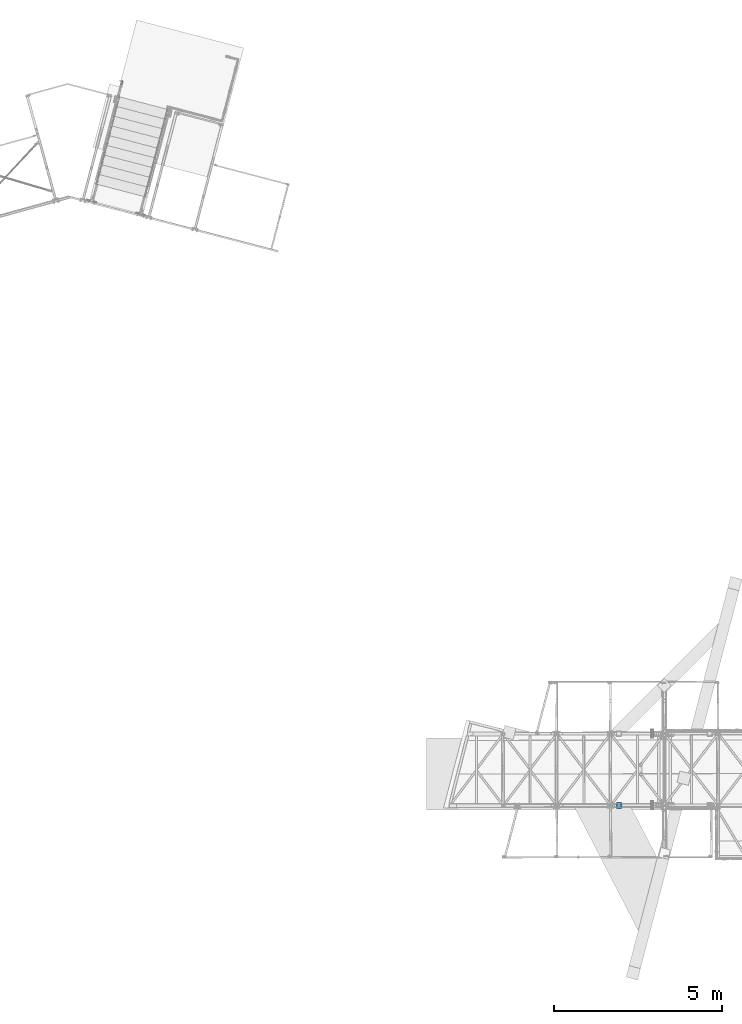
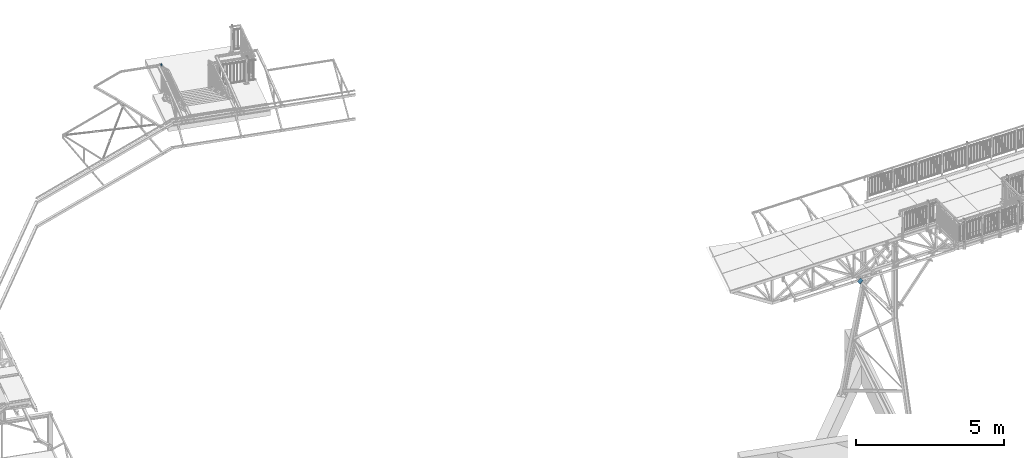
# One storey, part 22 of 169: 3 members, 1 beam, 4 elements without a shape of their own.
"""IFC2X3 building model written with IfcOpenShell, lengths in millimetres."""

import ifcopenshell
import ifcopenshell.guid

model = None  # the IFC model being written
_history = None  # IfcOwnerHistory: only IFC2X3 demands one
_inside = {}  # id of a spatial element -> (the spatial element, [elements in it])
_under = {}  # id of a project, library or spatial element -> (it, [spatial elements below it])
_declared = {}  # id of a project -> (the project, [libraries it declares])
_typed = {}  # id of a type object -> (the type object, [elements of that type])
_made_of = {}  # id of a material, layer set ... -> (it, [elements and type objects made of it])


def new_model(schema):
    """Start an empty IFC model of exactly this schema.

    Asked for "IFC4X3", IfcOpenShell would pick the latest addendum, in which some entities
    have other attributes; the version numbers below select the first issue.
    IFC2X3 requires an IfcOwnerHistory on every rooted entity: one is made here for all.
    """
    global model, _history
    if schema == "IFC4X3":
        model = ifcopenshell.file(schema_version=(4, 3, 0, 0))
    else:
        model = ifcopenshell.file(schema=schema)
    _inside.clear()
    _under.clear()
    _declared.clear()
    _typed.clear()
    _made_of.clear()
    _history = None
    if model.schema == "IFC2X3":
        org = make("IfcOrganization", Name="unknown")
        user = make(
            "IfcPersonAndOrganization",
            ThePerson=make("IfcPerson", FamilyName="unknown"),
            TheOrganization=org,
        )
        app = make(
            "IfcApplication",
            ApplicationDeveloper=org,
            Version="unknown",
            ApplicationFullName="unknown",
            ApplicationIdentifier="unknown",
        )
        _history = make(
            "IfcOwnerHistory",
            OwningUser=user,
            OwningApplication=app,
            ChangeAction="ADDED",
            CreationDate=0,
        )
    return model


def make(cls, **values):
    """One entity of the class cls with the attributes given. An attribute that is None is left unset."""
    return model.create_entity(
        cls, **{name: value for name, value in values.items() if value is not None}
    )


def rooted(cls, **values):
    """An entity with a GlobalId (a new one), such as an element, a storey or a relation."""
    return make(cls, GlobalId=ifcopenshell.guid.new(), OwnerHistory=_history, **values)


def si_unit(unit_type, name, prefix=None):
    """IfcSIUnit, for example si_unit("LENGTHUNIT", "METRE", prefix="MILLI")."""
    return make("IfcSIUnit", UnitType=unit_type, Prefix=prefix, Name=name)


def assignment(units):
    """IfcUnitAssignment: the units of a project."""
    return None if units is None else make("IfcUnitAssignment", Units=units)


def point(xyz):
    """IfcCartesianPoint."""
    return None if xyz is None else make("IfcCartesianPoint", Coordinates=xyz)


def direction(xyz):
    """IfcDirection."""
    return None if xyz is None else make("IfcDirection", DirectionRatios=xyz)


def frame(location, z_axis=None, x_axis=None):
    """IfcAxis2Placement3D, a coordinate frame: its origin and axes. An axis left out is left unset."""
    return make(
        "IfcAxis2Placement3D",
        Location=point(location),
        Axis=direction(z_axis),
        RefDirection=direction(x_axis),
    )


def frame_2d(location, x_axis=None):
    """IfcAxis2Placement2D, a coordinate frame in the plane: its origin and x axis."""
    return make(
        "IfcAxis2Placement2D", Location=point(location), RefDirection=direction(x_axis)
    )


def origin_with_axes():
    """The frame at (0, 0, 0) with the z axis (0, 0, 1) and the x axis (1, 0, 0) written out."""
    return frame((0.0, 0.0, 0.0), z_axis=(0.0, 0.0, 1.0), x_axis=(1.0, 0.0, 0.0))


def origin_2d_with_axis():
    """The frame at (0, 0) in the plane with the x axis (1, 0) written out."""
    return frame_2d((0.0, 0.0), x_axis=(1.0, 0.0))


def place(relative_to, where):
    """IfcLocalPlacement: puts the frame where relative to a parent placement (None: the world)."""
    return make(
        "IfcLocalPlacement", PlacementRelTo=relative_to, RelativePlacement=where
    )


def context(
    kind, dimensions, precision=None, world=None, true_north=None, identifier=None
):
    """IfcGeometricRepresentationContext, for example the 3D "Model" context."""
    return make(
        "IfcGeometricRepresentationContext",
        ContextIdentifier=identifier,
        ContextType=kind,
        CoordinateSpaceDimension=dimensions,
        Precision=precision,
        WorldCoordinateSystem=world,
        TrueNorth=true_north,
    )


def subcontext(parent, identifier, kind, view, scale=None):
    """IfcGeometricRepresentationSubContext, for example "Body" below "Model"."""
    return make(
        "IfcGeometricRepresentationSubContext",
        ContextIdentifier=identifier,
        ContextType=kind,
        ParentContext=parent,
        TargetScale=scale,
        TargetView=view,
    )


def project(units=None, contexts=None):
    """IfcProject with its units and contexts."""
    return rooted(
        "IfcProject",
        Name="project",
        RepresentationContexts=contexts,
        UnitsInContext=assignment(units),
    )


def spatial(cls, under=None, at=None, **own):
    """A site, building, storey or space (cls), placed at a placement, below another one or the project."""
    s = rooted(cls, ObjectPlacement=at, **own)
    if under is not None:
        _under.setdefault(under.id(), (under, []))[1].append(s)
    return s


def profile(cls, at=None, kind="AREA", **sizes):
    """A parametric profile (cls). Its sizes go by their IFC names, for example OverallWidth=200.0."""
    return make(cls, ProfileType=kind, Position=at, **sizes)


def rectangle(**sizes):
    """IfcRectangleProfileDef."""
    return profile("IfcRectangleProfileDef", **sizes)


def hollow_rectangle(**sizes):
    """IfcRectangleHollowProfileDef."""
    return profile("IfcRectangleHollowProfileDef", **sizes)


def extrude(swept, where, along, depth):
    """IfcExtrudedAreaSolid: the profile swept, set in the frame where, extruded along a direction by depth."""
    return make(
        "IfcExtrudedAreaSolid",
        SweptArea=swept,
        Position=where,
        ExtrudedDirection=direction(along),
        Depth=depth,
    )


def clip(a, b, op="DIFFERENCE"):
    """IfcBooleanClippingResult: the solid a cut by the half space b."""
    return make(
        "IfcBooleanClippingResult", Operator=op, FirstOperand=a, SecondOperand=b
    )


def halfspace(plane, agree):
    """IfcHalfSpaceSolid: all space on one side of the plane z = 0 of the frame plane."""
    return make(
        "IfcHalfSpaceSolid",
        BaseSurface=make("IfcPlane", Position=plane),
        AgreementFlag=agree,
    )


def shape(context_of_items, identifier, shape_type, items):
    """IfcShapeRepresentation: the items that make up one representation, for example the "Body"."""
    return make(
        "IfcShapeRepresentation",
        ContextOfItems=context_of_items,
        RepresentationIdentifier=identifier,
        RepresentationType=shape_type,
        Items=items,
    )


def material(Name=None, Category=None):
    """IfcMaterial."""
    return make("IfcMaterial", Name=Name, Category=Category)


def made_of(thing, what):
    """Note that an element or type object is made of a material, layer set ...; save() writes the relation."""
    if what is not None:
        _made_of.setdefault(what.id(), (what, []))[1].append(thing)
    return thing


def type_object(cls, material=None, **own):
    """A type object (cls), such as IfcWallType, which elements share."""
    return made_of(rooted(cls, **own), material)


def element(
    cls,
    number,
    at=None,
    inside=None,
    cuts=None,
    type_object=None,
    material=None,
    context=None,
    identifier="Body",
    shape_type=None,
    held_by="IfcProductDefinitionShape",
    body=None,
    shapes=None,
    **own,
):
    """One element of the class cls, such as IfcWall. Its Tag is "e" and its number.

    at: its placement. inside: the storey or other place that contains it. cuts: it is an
    opening in that element (IfcRelVoidsElement). A single representation is given by context,
    identifier, shape_type and body (its items); several are given by shapes. held_by: the class
    of the entity that holds the representations. save() writes the other relations.
    """
    e = rooted(cls, Tag="e%d" % number, ObjectPlacement=at, **own)
    if body is not None:
        shapes = [shape(context, identifier, shape_type, body)]
    if shapes is not None:
        e.Representation = make(held_by, Representations=shapes)
    if inside is not None:
        _inside.setdefault(inside.id(), (inside, []))[1].append(e)
    if cuts is not None:
        rooted(
            "IfcRelVoidsElement", RelatingBuildingElement=cuts, RelatedOpeningElement=e
        )
    if type_object is not None:
        _typed.setdefault(type_object.id(), (type_object, []))[1].append(e)
    return made_of(e, material)


def aggregate(whole, parts):
    """IfcRelAggregates: a whole, such as a stair, and the parts it consists of."""
    return rooted("IfcRelAggregates", RelatingObject=whole, RelatedObjects=parts)


def save(model, path):
    """Write the relations noted so far, then the file.

    IfcRelAggregates (storeys below a building ...), IfcRelContainedInSpatialStructure (elements
    in a storey), IfcRelDefinesByType, IfcRelAssociatesMaterial and IfcRelDeclares: one each for
    every whole, place, type object, material and project.
    """
    for whole, parts in _under.values():
        aggregate(whole, parts)
    for where, things in _inside.values():
        rooted(
            "IfcRelContainedInSpatialStructure",
            RelatedElements=things,
            RelatingStructure=where,
        )
    for kind, things in _typed.values():
        rooted("IfcRelDefinesByType", RelatedObjects=things, RelatingType=kind)
    for what, things in _made_of.values():
        rooted("IfcRelAssociatesMaterial", RelatedObjects=things, RelatingMaterial=what)
    for by, libraries in _declared.values():
        rooted("IfcRelDeclares", RelatingContext=by, RelatedDefinitions=libraries)
    model.write(path)


model = new_model("IFC2X3")

# Units and contexts
model_context = context("Model", 3, precision=1e-05, world=origin_with_axes())
body_context = subcontext(model_context, "Body", "Model", "MODEL_VIEW")
ifc_project = project(units=[si_unit("LENGTHUNIT", "METRE", prefix="MILLI"), si_unit("AREAUNIT", "SQUARE_METRE"), si_unit("VOLUMEUNIT", "CUBIC_METRE"), si_unit("MASSUNIT", "GRAM", prefix="KILO"), si_unit("TIMEUNIT", "SECOND"), si_unit("PLANEANGLEUNIT", "RADIAN"), si_unit("SOLIDANGLEUNIT", "STERADIAN"), si_unit("THERMODYNAMICTEMPERATUREUNIT", "DEGREE_CELSIUS"), si_unit("LUMINOUSINTENSITYUNIT", "LUMEN")], contexts=[model_context])

# Site, building, storey
site_placement = place(None, origin_with_axes())
site = spatial("IfcSite", under=ifc_project, at=site_placement, Name="Undefined", CompositionType="ELEMENT")
building_placement = place(site_placement, origin_with_axes())
building = spatial("IfcBuilding", under=site, at=building_placement, Name="Undefined", CompositionType="ELEMENT")
storey_placement = place(building_placement, origin_with_axes())
storey = spatial("IfcBuildingStorey", under=building, at=storey_placement, Name="Undefined", CompositionType="ELEMENT", Elevation=0.0)

# Assembly, beam
assembly_1_placement = place(storey_placement, origin_with_axes())
assembly_1 = element("IfcElementAssembly", 1, at=assembly_1_placement, inside=storey, Name="Steel Assembly", AssemblyPlace="NOTDEFINED", PredefinedType="RIGID_FRAME")
ifc_material_1 = material(Name="STEEL/S235")
beam_type = type_object("IfcBeamType", Name="SHS50*3", PredefinedType="NOTDEFINED")
beam_placement = place(assembly_1_placement, frame((-10084.2671773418, 21598.5776282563, 13640.418376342), z_axis=(-0.967563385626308, 0.252628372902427, -1.72000000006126e-07), x_axis=(0.252628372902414, 0.967563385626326, 0.0)))
beam = element("IfcBeam", 2, at=beam_placement, type_object=beam_type, material=ifc_material_1, Name="PORĘCZ", ObjectType="SHS50*3", context=body_context, shape_type="Clipping", body=[
    clip(extrude(hollow_rectangle(XDim=50.0, YDim=50.0, WallThickness=3.0, InnerFilletRadius=3.0, OuterFilletRadius=6.0, at=origin_2d_with_axis()), frame((155.321614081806, 0.0, 0.0), z_axis=(-1.0, -3.46944695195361e-18, -1.38777878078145e-17), x_axis=(1.73472347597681e-18, -1.0, 0.0)), (0.0, 0.0, 1.0), 155.32), halfspace(frame((92.7276988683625, 3.95939423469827e-08, 25.0000000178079), z_axis=(-0.707106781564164, -2.34576254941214e-10, -0.707106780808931), x_axis=(1.73472347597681e-18, -1.0, 0.0)), True)),
])
aggregate(assembly_1, [beam])

# Assembly, member
assembly_2_placement = place(storey_placement, origin_with_axes())
assembly_2 = element("IfcElementAssembly", 3, at=assembly_2_placement, inside=storey, Name="Steel Assembly", AssemblyPlace="NOTDEFINED", PredefinedType="RIGID_FRAME")
ifc_material_2 = material(Name="STEEL/S355")
member_type = type_object("IfcMemberType", Name="BL5*170", PredefinedType="NOTDEFINED")
member_1_placement = place(assembly_2_placement, frame((4833.60901369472, 114.028124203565, 12658.8004660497), z_axis=(-0.0018648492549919, 0.999998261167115, -4.2996762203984e-08), x_axis=(-0.792353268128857, -0.00147761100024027, -0.610060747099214)))
member_1 = element("IfcMember", 4, at=member_1_placement, type_object=member_type, material=ifc_material_2, Name="BLACHA", ObjectType="BL5*170", context=body_context, shape_type="SweptSolid", body=[
    extrude(rectangle(XDim=5.0, YDim=170.0, at=origin_2d_with_axis()), frame((169.999999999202, 0.0, -3.62691994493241e-12), z_axis=(-1.0, -3.46944695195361e-18, -1.38777878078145e-17), x_axis=(1.73472347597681e-18, -1.0, 0.0)), (0.0, 0.0, 1.0), 170.0),
])
aggregate(assembly_2, [member_1])

assembly_3_placement = place(storey_placement, origin_with_axes())
assembly_3 = element("IfcElementAssembly", 5, at=assembly_3_placement, inside=storey, Name="Steel Assembly", AssemblyPlace="NOTDEFINED", PredefinedType="RIGID_FRAME")
member_2_placement = place(assembly_3_placement, frame((4836.65931212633, 114.033812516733, 12654.8386928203), z_axis=(-0.0018648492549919, 0.999998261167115, -4.2996762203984e-08), x_axis=(-0.792353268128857, -0.00147761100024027, -0.610060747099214)))
member_2 = element("IfcMember", 6, at=member_2_placement, type_object=member_type, material=ifc_material_2, Name="BLACHA", ObjectType="BL5*170", context=body_context, shape_type="SweptSolid", body=[
    extrude(rectangle(XDim=5.0, YDim=170.0, at=origin_2d_with_axis()), frame((169.999999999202, 0.0, -3.62691994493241e-12), z_axis=(-1.0, -3.46944695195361e-18, -1.38777878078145e-17), x_axis=(1.73472347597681e-18, -1.0, 0.0)), (0.0, 0.0, 1.0), 170.0),
])
aggregate(assembly_3, [member_2])

assembly_4_placement = place(storey_placement, origin_with_axes())
assembly_4 = element("IfcElementAssembly", 7, at=assembly_4_placement, inside=storey, Name="Steel Assembly", AssemblyPlace="NOTDEFINED", PredefinedType="RIGID_FRAME")
member_3_placement = place(assembly_4_placement, frame((4839.70961055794, 114.0395008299, 12650.8769195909), z_axis=(-0.0018648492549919, 0.999998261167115, -4.2996762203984e-08), x_axis=(-0.792353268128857, -0.00147761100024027, -0.610060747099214)))
member_3 = element("IfcMember", 8, at=member_3_placement, type_object=member_type, material=ifc_material_2, Name="BLACHA", ObjectType="BL5*170", context=body_context, shape_type="SweptSolid", body=[
    extrude(rectangle(XDim=5.0, YDim=170.0, at=origin_2d_with_axis()), frame((169.999999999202, 0.0, -3.62691994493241e-12), z_axis=(-1.0, -3.46944695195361e-18, -1.38777878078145e-17), x_axis=(1.73472347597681e-18, -1.0, 0.0)), (0.0, 0.0, 1.0), 170.0),
])
aggregate(assembly_4, [member_3])

save(model, "model.ifc")
